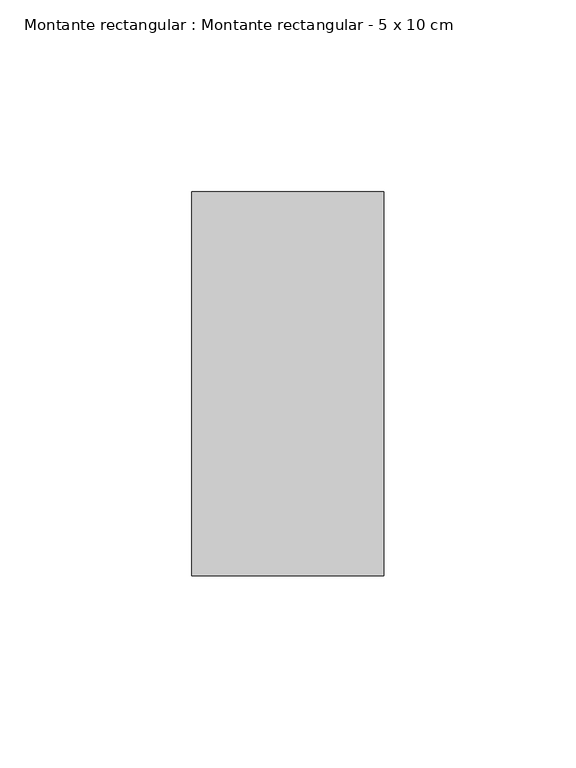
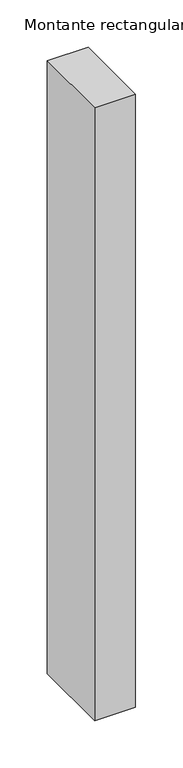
"""IFC4 building model written with IfcOpenShell, lengths in millimetres: member geometry, Montante rectangular : Montante rectangular - 5 x 10 cm."""

from ifc_helpers import new_model, si_unit, frame, origin, place, context, project, spatial, polyline, outline, extrude, source, transform, mapped, element, save


def montante_rectangular_montante_rectangular_5_x_10_cm_040a528b(model_context):
    return source(origin(), model_context, "Body", "SweptSolid", [
        extrude(outline(polyline([(25.0, -50.0), (-25.0, -50.0), (-25.0, 50.0), (25.0, 50.0), (25.0, -50.0)])), frame((0.0, 0.0, -791.6666667), z_axis=(0.0, 0.0, 1.0), x_axis=(1.0, 0.0, 0.0)), (0.0, 0.0, 1.0), 791.6666667),
    ])


if __name__ == "__main__":
    model = new_model("IFC4")
    model_context = context("Model", 3, world=origin())
    ifc_project = project(units=[si_unit("LENGTHUNIT", "METRE", prefix="MILLI")], contexts=[model_context])
    site = spatial("IfcSite", under=ifc_project)
    building = spatial("IfcBuilding", under=site)
    placement = place(None, origin())
    montante_rectangular_montante_rectangular_5_x_10_cm_shape = montante_rectangular_montante_rectangular_5_x_10_cm_040a528b(model_context)
    element("IfcMember", 1, ObjectType="Montante rectangular : Montante rectangular - 5 x 10 cm", at=placement, inside=building, context=model_context, shape_type="MappedRepresentation", body=[
        mapped(montante_rectangular_montante_rectangular_5_x_10_cm_shape, transform((0.0, 0.0, 0.0), x_axis=(1.0, 0.0, 0.0), y_axis=(0.0, 1.0, 0.0), z_axis=(0.0, 0.0, 1.0))),
    ])
    save(model, "model.ifc")
